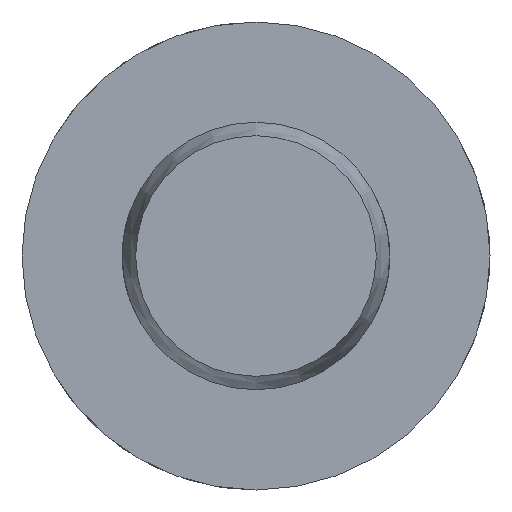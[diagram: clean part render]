
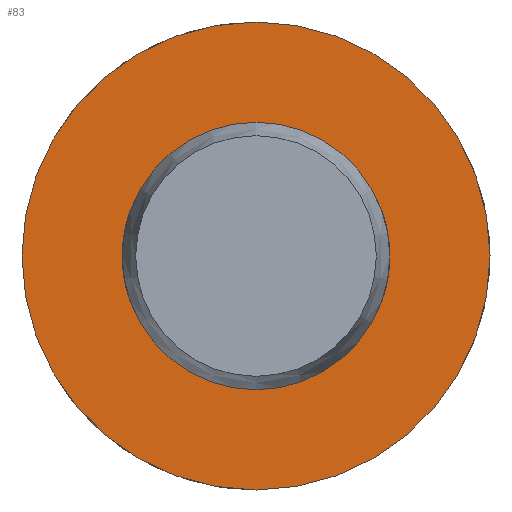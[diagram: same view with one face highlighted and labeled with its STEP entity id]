
A CAD part, left-side view. The second image highlights one B-rep face of the part: STEP entity #83.
In plain terms, the highlighted planar face has unit normal (-1, 0, 0).
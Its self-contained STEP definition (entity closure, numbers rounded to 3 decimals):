
#83 = ADVANCED_FACE( '', ( #128, #129 ), #130, .F. );
#128 = FACE_OUTER_BOUND( '', #204, .T. );
#129 = FACE_BOUND( '', #205, .T. );
#130 = PLANE( '', #206 );
#204 = EDGE_LOOP( '', ( #318 ) );
#205 = EDGE_LOOP( '', ( #319 ) );
#206 = AXIS2_PLACEMENT_3D( '', #320, #321, #322 );
#318 = ORIENTED_EDGE( '', *, *, #481, .F. );
#319 = ORIENTED_EDGE( '', *, *, #471, .T. );
#320 = CARTESIAN_POINT( '', ( 78.2, 4., 0. ) );
#321 = DIRECTION( '', ( 1., 0., 0. ) );
#322 = DIRECTION( '', ( 0., 0., -1. ) );
#471 = EDGE_CURVE( '', #541, #541, #542, .T. );
#481 = EDGE_CURVE( '', #559, #559, #560, .T. );
#541 = VERTEX_POINT( '', #726 );
#542 = CIRCLE( '', #727, 4. );
#559 = VERTEX_POINT( '', #861 );
#560 = CIRCLE( '', #862, 7. );
#726 = CARTESIAN_POINT( '', ( 78.2, 0., -4. ) );
#727 = AXIS2_PLACEMENT_3D( '', #923, #924, #925 );
#861 = CARTESIAN_POINT( '', ( 78.2, 0., -7. ) );
#862 = AXIS2_PLACEMENT_3D( '', #944, #945, #946 );
#923 = CARTESIAN_POINT( '', ( 78.2, 0., 0. ) );
#924 = DIRECTION( '', ( 1., 0., 0. ) );
#925 = DIRECTION( '', ( 0., 0., -1. ) );
#944 = CARTESIAN_POINT( '', ( 78.2, 0., 0. ) );
#945 = DIRECTION( '', ( 1., 0., 0. ) );
#946 = DIRECTION( '', ( 0., 0., -1. ) );
